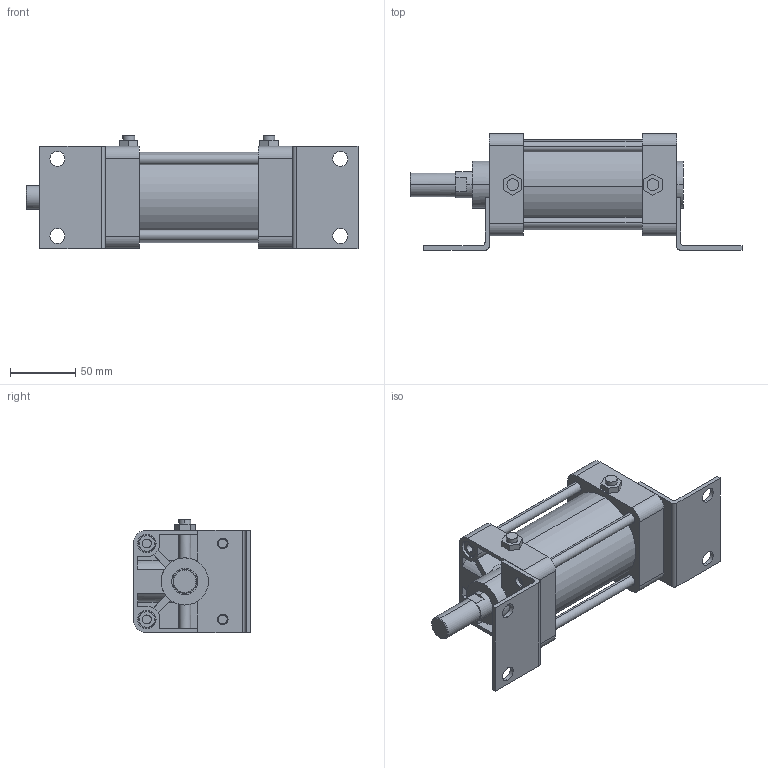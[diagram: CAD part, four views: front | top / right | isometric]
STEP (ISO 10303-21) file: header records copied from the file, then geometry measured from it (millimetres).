
FILE_DESCRIPTION (( 'STEP AP203' ), '1' );
FILE_NAME ('KG2-63-50-L.STEP', '2016-04-01T08:16:00', ( '' ), ( '' ), 'SwSTEP 2.0', 'SolidWorks 2014', '' );
FILE_SCHEMA (( 'CONFIG_CONTROL_DESIGN' ));
Length unit declared in the file: millimetre
Products named in the file (7): KG2-63-After; KG2-63-50-L; KGLH2-63-50; K-63-L
Assembly tree (17 placements, depth 2):
  KG2-63-50-L
    KG2-63-After
    KGLH2-63-50
    (unnamed)
    (unnamed)  x4
    (unnamed)  x8
    K-63-L  x2
Bounding box: 253.5 x 89 x 86.3 mm (x, y, z)
Volume: 642288 mm3; surface area: 147203.9 mm2
Topology: 17 solids, 17 shells, 355 faces, 854 edges, 548 vertices
Faces by surface type: plane 155, cylinder 142, torus 32, cone 26
Entity records: 8596 total; most frequent: CARTESIAN_POINT 1500, DIRECTION 1336, ORIENTED_EDGE 1220, EDGE_CURVE 610, AXIS2_PLACEMENT_3D 493, VERTEX_POINT 402, LINE 350, VECTOR 350
